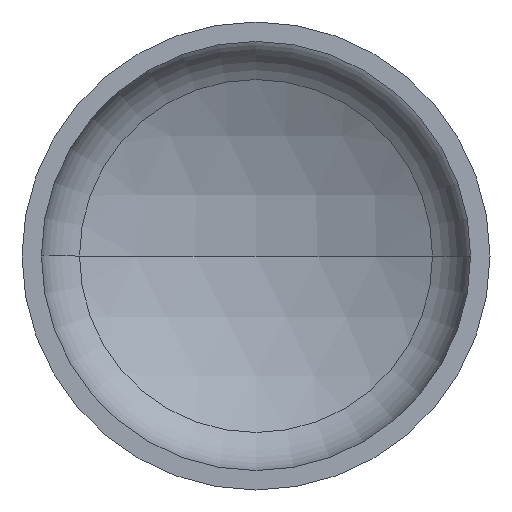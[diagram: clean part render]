
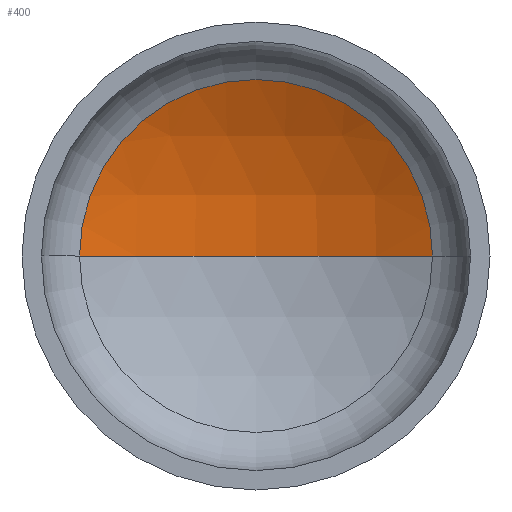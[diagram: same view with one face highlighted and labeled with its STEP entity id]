
A CAD part, front view. The second image highlights one B-rep face of the part: STEP entity #400.
In plain terms, the highlighted spherical face has radius 1040 mm.
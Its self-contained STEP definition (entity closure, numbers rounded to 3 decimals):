
#2 = AXIS2_PLACEMENT_3D ( 'NONE', #125, #306, #308 ) ;
#12 = VERTEX_POINT ( 'NONE', #258 ) ;
#22 = AXIS2_PLACEMENT_3D ( 'NONE', #263, #221, #382 ) ;
#25 = AXIS2_PLACEMENT_3D ( 'NONE', #140, #143, #172 ) ;
#29 = EDGE_LOOP ( 'NONE', ( #139, #144, #142 ) ) ;
#88 = VERTEX_POINT ( 'NONE', #318 ) ;
#92 = CIRCLE ( 'NONE', #25, 490.286 ) ;
#125 = CARTESIAN_POINT ( 'NONE',  ( 0., -620.8, 0. ) ) ;
#131 = VERTEX_POINT ( 'NONE', #290 ) ;
#139 = ORIENTED_EDGE ( 'NONE', *, *, #390, .F. ) ;
#140 = CARTESIAN_POINT ( 'NONE',  ( 0., 296.381, 0. ) ) ;
#142 = ORIENTED_EDGE ( 'NONE', *, *, #327, .T. ) ;
#143 = DIRECTION ( 'NONE',  ( 0., -1., 0. ) ) ;
#144 = ORIENTED_EDGE ( 'NONE', *, *, #338, .T. ) ;
#172 = DIRECTION ( 'NONE',  ( 1., 0., 0. ) ) ;
#173 = FACE_OUTER_BOUND ( 'NONE', #29, .T. ) ;
#197 = AXIS2_PLACEMENT_3D ( 'NONE', #243, #265, #279 ) ;
#221 = DIRECTION ( 'NONE',  ( 0., 0., -1. ) ) ;
#242 = CIRCLE ( 'NONE', #2, 1040. ) ;
#243 = CARTESIAN_POINT ( 'NONE',  ( 0., -620.8, 0. ) ) ;
#258 = CARTESIAN_POINT ( 'NONE',  ( 0., 419.2, 0. ) ) ;
#263 = CARTESIAN_POINT ( 'NONE',  ( 0., -620.8, 0. ) ) ;
#265 = DIRECTION ( 'NONE',  ( 0., 0., -1. ) ) ;
#279 = DIRECTION ( 'NONE',  ( -1., 0., 0. ) ) ;
#290 = CARTESIAN_POINT ( 'NONE',  ( -490.286, 296.381, 0. ) ) ;
#306 = DIRECTION ( 'NONE',  ( 0., 0., 1. ) ) ;
#308 = DIRECTION ( 'NONE',  ( 1., 0., 0. ) ) ;
#318 = CARTESIAN_POINT ( 'NONE',  ( 490.286, 296.381, 0. ) ) ;
#327 = EDGE_CURVE ( 'NONE', #88, #131, #92, .T. ) ;
#338 = EDGE_CURVE ( 'NONE', #12, #88, #384, .T. ) ;
#364 = SPHERICAL_SURFACE ( 'NONE', #197, 1040. ) ;
#382 = DIRECTION ( 'NONE',  ( -1., 0., 0. ) ) ;
#384 = CIRCLE ( 'NONE', #22, 1040. ) ;
#390 = EDGE_CURVE ( 'NONE', #12, #131, #242, .T. ) ;
#400 = ADVANCED_FACE ( 'NONE', ( #173 ), #364, .F. ) ;
